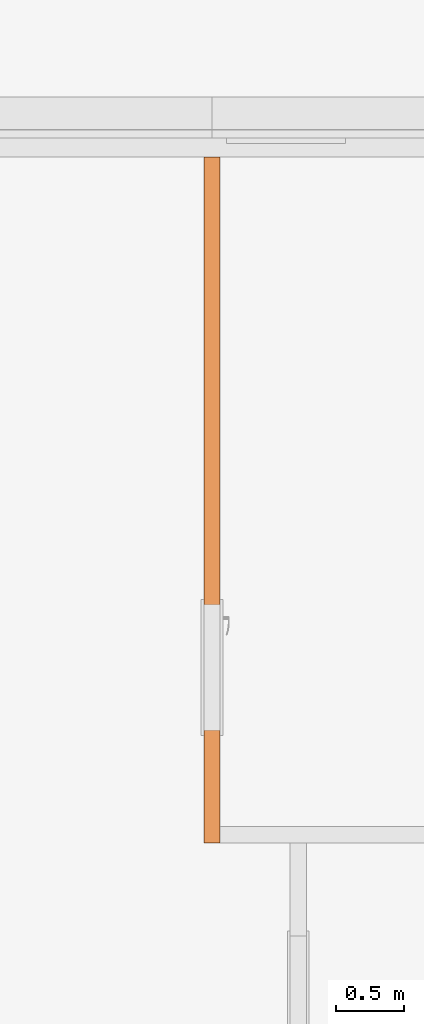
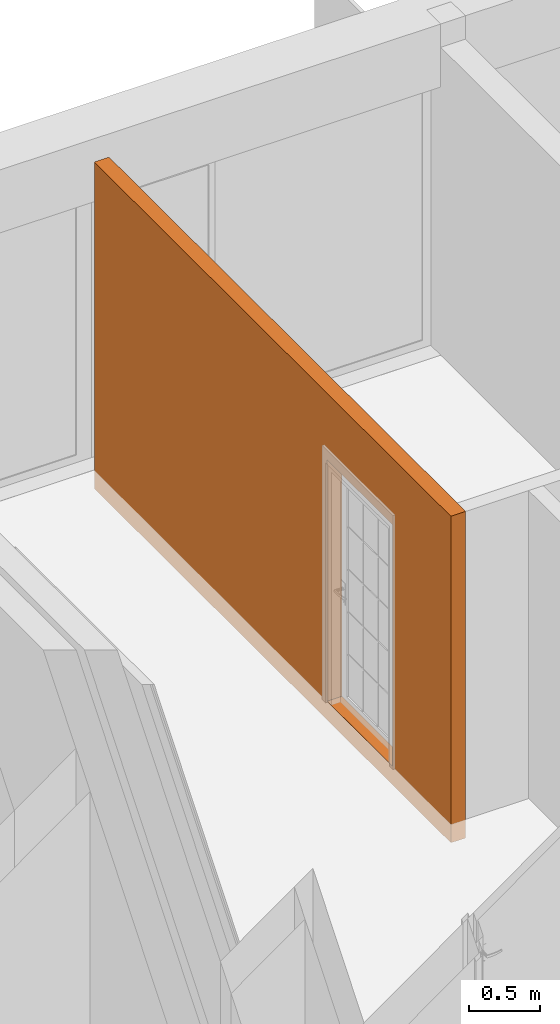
# One storey, part 42 of 66: 1 proxy, 1 opening.
"""IFC2X3 building model written with IfcOpenShell, lengths in millimetres."""

from ifc_helpers import new_model, entity, si_unit, converted_unit, derived_unit, money_unit, direction, frame, origin_with_axes, origin_2d_with_axis, place, context, subcontext, project, spatial, rectangle, extrude, faceted_brep, material, type_object, element, save


model = new_model("IFC2X3")

# Units and contexts
model_context = context("Model", 3, precision=0.01, world=origin_with_axes(), true_north=direction((0.34421633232, 0.938890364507)))
body_context = subcontext(model_context, "Body", "Model", "MODEL_VIEW")
ifc_project = project(units=[si_unit("LENGTHUNIT", "METRE", prefix="MILLI"), si_unit("AREAUNIT", "SQUARE_METRE"), si_unit("VOLUMEUNIT", "CUBIC_METRE"), converted_unit("PLANEANGLEUNIT", "DEGREE", entity("IfcPlaneAngleMeasure", 0.0174532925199), si_unit("PLANEANGLEUNIT", "RADIAN"), dimensions=[0, 0, 0, 0, 0, 0, 0]), si_unit("SOLIDANGLEUNIT", "STERADIAN"), money_unit("USD"), converted_unit("TIMEUNIT", "Year", entity("IfcTimeMeasure", 31556926.0), si_unit("TIMEUNIT", "SECOND"), dimensions=[0, 0, 1, 0, 0, 0, 0]), si_unit("MASSUNIT", "GRAM", prefix="KILO"), si_unit("THERMODYNAMICTEMPERATUREUNIT", "DEGREE_CELSIUS"), si_unit("LUMINOUSINTENSITYUNIT", "LUMEN"), si_unit("ENERGYUNIT", "JOULE", prefix="MEGA"), derived_unit("THERMALCONDUCTANCEUNIT", [(si_unit("POWERUNIT", "WATT"), 1), (si_unit("LENGTHUNIT", "METRE"), -1), (si_unit("THERMODYNAMICTEMPERATUREUNIT", "KELVIN"), -1)]), derived_unit("SPECIFICHEATCAPACITYUNIT", [(si_unit("ENERGYUNIT", "JOULE"), 1), (si_unit("MASSUNIT", "GRAM", prefix="KILO"), -1), (si_unit("THERMODYNAMICTEMPERATUREUNIT", "KELVIN"), -1)]), derived_unit("MASSDENSITYUNIT", [(si_unit("MASSUNIT", "GRAM", prefix="KILO"), 1), (si_unit("VOLUMEUNIT", "CUBIC_METRE"), -1)])], contexts=[model_context])

# Site, building, storey
site_placement = place(None, origin_with_axes())
site = spatial("IfcSite", under=ifc_project, at=site_placement, Name="USTRONIE MORSKIE", CompositionType="ELEMENT")
building_placement = place(site_placement, origin_with_axes())
building = spatial("IfcBuilding", under=site, at=building_placement, Name="Budynek", CompositionType="ELEMENT")
storey_placement = place(building_placement, frame((0.0, 0.0, 10000.0), z_axis=(0.0, 0.0, 1.0), x_axis=(1.0, 0.0, 0.0)))
storey = spatial("IfcBuildingStorey", under=building, at=storey_placement, Name="PIĘTRO 3", CompositionType="ELEMENT", Elevation=10000.0)

# Proxy, opening
ifc_material = material(Name="Bloczki silikatowe")
building_element_proxy_type = type_object("IfcBuildingElementProxyType", Name="Bloczki silikatowe 120", PredefinedType="NOTDEFINED")
proxy_placement = place(storey_placement, frame((370467.913786, 739651.199937, -160.0), z_axis=(0.0, 0.0, 1.0), x_axis=(0.0, 1.0, 0.0)))
proxy = element("IfcBuildingElementProxy", 1, at=proxy_placement, inside=storey, type_object=building_element_proxy_type, material=ifc_material, Name="SW-04", context=body_context, shape_type="Brep", body=[
    faceted_brep([(4950.00291861, 60.0, 0.0), (4950.00305585, -60.0, 0.0), (-59.9999999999, -60.0, 0.0), (-59.9999999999, 60.0, 0.0), (4950.00291861, 60.0, 2800.0), (4950.00305585, -60.0, 2800.0), (-59.9999999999, -60.0, 2800.0), (-59.9999999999, 60.0, 2800.0)], [[[0, 1, 2, 3]], [[1, 0, 4, 5]], [[1, 5, 6, 2]], [[7, 3, 2, 6]], [[4, 0, 3, 7]], [[5, 4, 7, 6]]]),
])
opening_placement = place(proxy_placement, frame((1220.0, 0.0, 160.0), z_axis=(0.0, 0.0, 1.0), x_axis=(1.0, 0.0, 0.0)))
element("IfcOpeningElement", 2, at=opening_placement, cuts=proxy, Name="Dw.3", context=body_context, shape_type="SweptSolid", body=[
    extrude(rectangle(XDim=920.0, YDim=2070.0, at=origin_2d_with_axis()), frame((0.0, -120.0, 1035.0), z_axis=(0.0, 1.0, 0.0), x_axis=(-1.0, 0.0, 0.0)), (0.0, 0.0, 1.0), 360.0),
    extrude(rectangle(XDim=994.0, YDim=2177.0, at=origin_2d_with_axis()), frame((0.0, -60.0, 1088.5), z_axis=(0.0, 1.0, 0.0), x_axis=(-1.0, 0.0, 0.0)), (0.0, 0.0, -1.0), 120.0),
    extrude(rectangle(XDim=994.0, YDim=2177.0, at=origin_2d_with_axis()), frame((0.0, 60.0, 1088.5), z_axis=(0.0, -1.0, 0.0), x_axis=(-1.0, 0.0, 0.0)), (0.0, 0.0, -1.0), 120.0),
])

save(model, "model.ifc")
